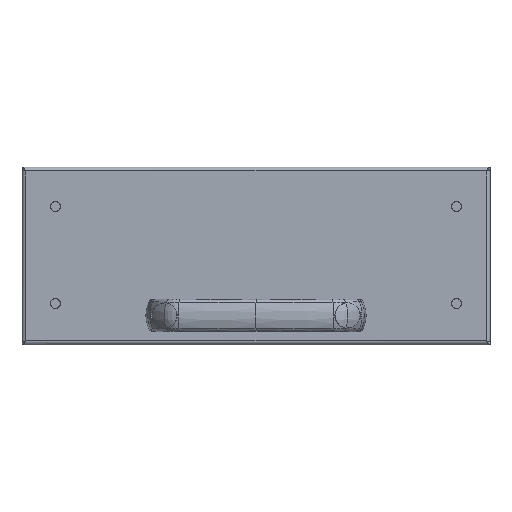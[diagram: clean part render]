
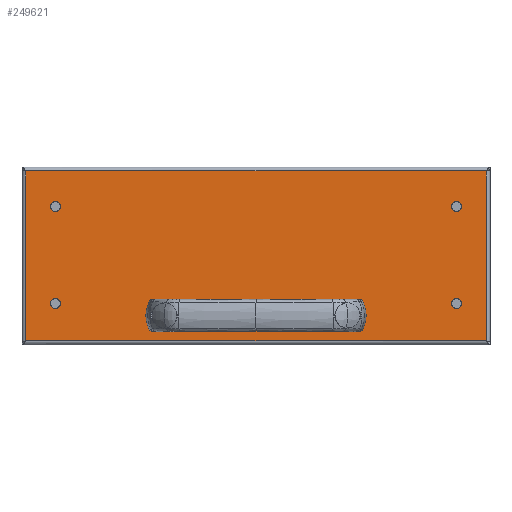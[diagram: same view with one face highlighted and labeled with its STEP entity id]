
A CAD part, top view. The second image highlights one B-rep face of the part: STEP entity #249621.
In plain terms, the highlighted planar face has unit normal (0, 0, 1).
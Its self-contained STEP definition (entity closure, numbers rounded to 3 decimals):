
#248661=CARTESIAN_POINT(' ',(52.75,-32.5,0.));
#248662=VERTEX_POINT(' ',#248661);
#248681=CARTESIAN_POINT(' ',(50.,-32.5,0.));
#248686=DIRECTION(' ',(0.,0.,1.));
#248691=DIRECTION(' ',(1.,0.,0.));
#248696=AXIS2_PLACEMENT_3D(' ',#248681,#248686,#248691);
#248701=CIRCLE('',#248696,2.75);
#248706=CARTESIAN_POINT(' ',(47.25,-32.5,0.));
#248707=VERTEX_POINT(' ',#248706);
#248711=EDGE_CURVE(' ',#248662,#248707,#248701,.T.);
#248881=CARTESIAN_POINT(' ',(50.,-32.5,0.));
#248886=DIRECTION(' ',(0.,0.,1.));
#248891=DIRECTION(' ',(-1.,0.,0.));
#248896=AXIS2_PLACEMENT_3D(' ',#248881,#248886,#248891);
#248901=CIRCLE('',#248896,2.75);
#248906=EDGE_CURVE(' ',#248707,#248662,#248901,.T.);
#248976=DIRECTION(' ',(-0.,-0.,1.));
#248981=CARTESIAN_POINT(' ',(125.65,-46.4,0.));
#248986=DIRECTION(' ',(0.,1.,0.));
#248991=AXIS2_PLACEMENT_3D(' ',#248981,#248976,#248986);
#248996=PLANE('NONE',#248991);
#249001=CARTESIAN_POINT(' ',(125.65,-46.4,0.));
#249006=DIRECTION(' ',(0.,1.,0.));
#249011=VECTOR(' ',#249006,1.);
#249016=LINE('',#249001,#249011);
#249021=CARTESIAN_POINT(' ',(125.65,-46.4,0.));
#249022=VERTEX_POINT(' ',#249021);
#249026=CARTESIAN_POINT(' ',(125.65,46.4,0.));
#249027=VERTEX_POINT(' ',#249026);
#249031=EDGE_CURVE(' ',#249022,#249027,#249016,.T.);
#249036=ORIENTED_EDGE(' ',*,*,#249031,.T.);
#249041=CARTESIAN_POINT(' ',(125.65,46.4,0.));
#249046=DIRECTION(' ',(-1.,0.,0.));
#249051=VECTOR(' ',#249046,1.);
#249056=LINE('',#249041,#249051);
#249061=CARTESIAN_POINT(' ',(-125.65,46.4,0.));
#249062=VERTEX_POINT(' ',#249061);
#249066=EDGE_CURVE(' ',#249027,#249062,#249056,.T.);
#249071=ORIENTED_EDGE(' ',*,*,#249066,.T.);
#249076=CARTESIAN_POINT(' ',(-125.65,46.4,0.));
#249081=DIRECTION(' ',(0.,-1.,0.));
#249086=VECTOR(' ',#249081,1.);
#249091=LINE('',#249076,#249086);
#249096=CARTESIAN_POINT(' ',(-125.65,-46.4,0.));
#249097=VERTEX_POINT(' ',#249096);
#249101=EDGE_CURVE(' ',#249062,#249097,#249091,.T.);
#249106=ORIENTED_EDGE(' ',*,*,#249101,.T.);
#249111=CARTESIAN_POINT(' ',(-125.65,-46.4,0.));
#249116=DIRECTION(' ',(1.,0.,0.));
#249121=VECTOR(' ',#249116,1.);
#249126=LINE('',#249111,#249121);
#249131=EDGE_CURVE(' ',#249097,#249022,#249126,.T.);
#249136=ORIENTED_EDGE(' ',*,*,#249131,.T.);
#249141=EDGE_LOOP(' ',(#249036,#249071,#249106,#249136));
#249146=FACE_OUTER_BOUND(' ',#249141,.T.);
#249151=ORIENTED_EDGE(' ',*,*,#248906,.F.);
#249156=ORIENTED_EDGE(' ',*,*,#248711,.F.);
#249161=EDGE_LOOP(' ',(#249151,#249156));
#249166=FACE_BOUND(' ',#249161,.T.);
#249171=CARTESIAN_POINT(' ',(-109.5,27.,0.));
#249176=DIRECTION(' ',(0.,-0.,-1.));
#249181=DIRECTION(' ',(-1.,0.,0.));
#249186=AXIS2_PLACEMENT_3D(' ',#249171,#249176,#249181);
#249191=CIRCLE('',#249186,2.75);
#249196=CARTESIAN_POINT(' ',(-112.25,27.,0.));
#249197=VERTEX_POINT(' ',#249196);
#249201=CARTESIAN_POINT(' ',(-106.75,27.,0.));
#249202=VERTEX_POINT(' ',#249201);
#249206=EDGE_CURVE(' ',#249197,#249202,#249191,.T.);
#249211=ORIENTED_EDGE(' ',*,*,#249206,.T.);
#249216=CARTESIAN_POINT(' ',(-109.5,27.,0.));
#249221=DIRECTION(' ',(0.,0.,-1.));
#249226=DIRECTION(' ',(1.,0.,0.));
#249231=AXIS2_PLACEMENT_3D(' ',#249216,#249221,#249226);
#249236=CIRCLE('',#249231,2.75);
#249241=EDGE_CURVE(' ',#249202,#249197,#249236,.T.);
#249246=ORIENTED_EDGE(' ',*,*,#249241,.T.);
#249251=EDGE_LOOP(' ',(#249211,#249246));
#249256=FACE_BOUND(' ',#249251,.T.);
#249261=CARTESIAN_POINT(' ',(109.5,-26.,0.));
#249266=DIRECTION(' ',(0.,-0.,-1.));
#249271=DIRECTION(' ',(-1.,0.,0.));
#249276=AXIS2_PLACEMENT_3D(' ',#249261,#249266,#249271);
#249281=CIRCLE('',#249276,2.75);
#249286=CARTESIAN_POINT(' ',(106.75,-26.,0.));
#249287=VERTEX_POINT(' ',#249286);
#249291=CARTESIAN_POINT(' ',(112.25,-26.,0.));
#249292=VERTEX_POINT(' ',#249291);
#249296=EDGE_CURVE(' ',#249287,#249292,#249281,.T.);
#249301=ORIENTED_EDGE(' ',*,*,#249296,.T.);
#249306=CARTESIAN_POINT(' ',(109.5,-26.,0.));
#249311=DIRECTION(' ',(0.,0.,-1.));
#249316=DIRECTION(' ',(1.,0.,0.));
#249321=AXIS2_PLACEMENT_3D(' ',#249306,#249311,#249316);
#249326=CIRCLE('',#249321,2.75);
#249331=EDGE_CURVE(' ',#249292,#249287,#249326,.T.);
#249336=ORIENTED_EDGE(' ',*,*,#249331,.T.);
#249341=EDGE_LOOP(' ',(#249301,#249336));
#249346=FACE_BOUND(' ',#249341,.T.);
#249351=CARTESIAN_POINT(' ',(-109.5,-26.,0.));
#249356=DIRECTION(' ',(0.,-0.,-1.));
#249361=DIRECTION(' ',(-1.,0.,0.));
#249366=AXIS2_PLACEMENT_3D(' ',#249351,#249356,#249361);
#249371=CIRCLE('',#249366,2.75);
#249376=CARTESIAN_POINT(' ',(-112.25,-26.,0.));
#249377=VERTEX_POINT(' ',#249376);
#249381=CARTESIAN_POINT(' ',(-106.75,-26.,0.));
#249382=VERTEX_POINT(' ',#249381);
#249386=EDGE_CURVE(' ',#249377,#249382,#249371,.T.);
#249391=ORIENTED_EDGE(' ',*,*,#249386,.T.);
#249396=CARTESIAN_POINT(' ',(-109.5,-26.,0.));
#249401=DIRECTION(' ',(0.,0.,-1.));
#249406=DIRECTION(' ',(1.,0.,0.));
#249411=AXIS2_PLACEMENT_3D(' ',#249396,#249401,#249406);
#249416=CIRCLE('',#249411,2.75);
#249421=EDGE_CURVE(' ',#249382,#249377,#249416,.T.);
#249426=ORIENTED_EDGE(' ',*,*,#249421,.T.);
#249431=EDGE_LOOP(' ',(#249391,#249426));
#249436=FACE_BOUND(' ',#249431,.T.);
#249441=CARTESIAN_POINT(' ',(109.5,27.,0.));
#249446=DIRECTION(' ',(0.,-0.,-1.));
#249451=DIRECTION(' ',(-1.,0.,0.));
#249456=AXIS2_PLACEMENT_3D(' ',#249441,#249446,#249451);
#249461=CIRCLE('',#249456,2.75);
#249466=CARTESIAN_POINT(' ',(106.75,27.,0.));
#249467=VERTEX_POINT(' ',#249466);
#249471=CARTESIAN_POINT(' ',(112.25,27.,0.));
#249472=VERTEX_POINT(' ',#249471);
#249476=EDGE_CURVE(' ',#249467,#249472,#249461,.T.);
#249481=ORIENTED_EDGE(' ',*,*,#249476,.T.);
#249486=CARTESIAN_POINT(' ',(109.5,27.,0.));
#249491=DIRECTION(' ',(0.,0.,-1.));
#249496=DIRECTION(' ',(1.,0.,0.));
#249501=AXIS2_PLACEMENT_3D(' ',#249486,#249491,#249496);
#249506=CIRCLE('',#249501,2.75);
#249511=EDGE_CURVE(' ',#249472,#249467,#249506,.T.);
#249516=ORIENTED_EDGE(' ',*,*,#249511,.T.);
#249521=EDGE_LOOP(' ',(#249481,#249516));
#249526=FACE_BOUND(' ',#249521,.T.);
#249531=CARTESIAN_POINT(' ',(-50.,-32.5,0.));
#249536=DIRECTION(' ',(0.,0.,1.));
#249541=DIRECTION(' ',(-1.,0.,0.));
#249546=AXIS2_PLACEMENT_3D(' ',#249531,#249536,#249541);
#249551=CIRCLE('',#249546,2.75);
#249556=CARTESIAN_POINT(' ',(-52.75,-32.5,0.));
#249557=VERTEX_POINT(' ',#249556);
#249561=CARTESIAN_POINT(' ',(-47.25,-32.5,0.));
#249562=VERTEX_POINT(' ',#249561);
#249566=EDGE_CURVE(' ',#249557,#249562,#249551,.T.);
#249571=ORIENTED_EDGE(' ',*,*,#249566,.F.);
#249576=CARTESIAN_POINT(' ',(-50.,-32.5,0.));
#249581=DIRECTION(' ',(0.,0.,1.));
#249586=DIRECTION(' ',(1.,0.,0.));
#249591=AXIS2_PLACEMENT_3D(' ',#249576,#249581,#249586);
#249596=CIRCLE('',#249591,2.75);
#249601=EDGE_CURVE(' ',#249562,#249557,#249596,.T.);
#249606=ORIENTED_EDGE(' ',*,*,#249601,.F.);
#249611=EDGE_LOOP(' ',(#249571,#249606));
#249616=FACE_BOUND(' ',#249611,.T.);
#249621=ADVANCED_FACE('NONE',(#249146,#249166,#249256,#249346,#249436,#249526,#249616),#248996,.T.);
